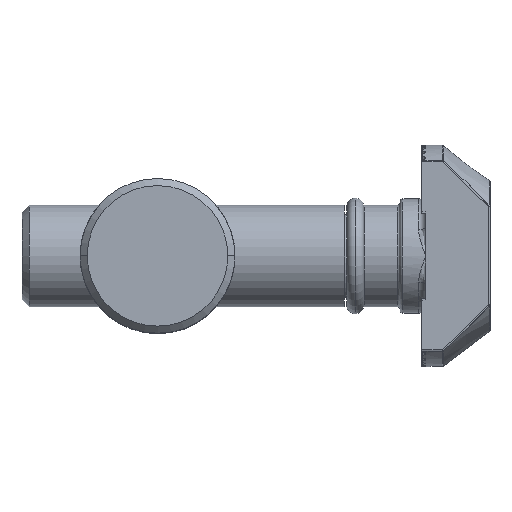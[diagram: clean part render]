
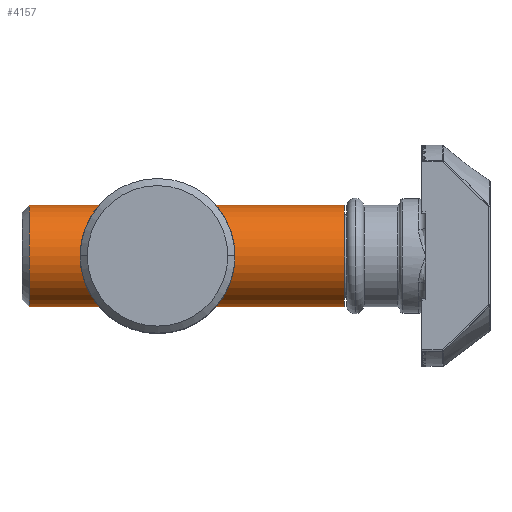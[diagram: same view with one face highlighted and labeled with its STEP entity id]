
A CAD part, top view. The second image highlights one B-rep face of the part: STEP entity #4157.
In plain terms, the highlighted cylindrical face has radius 3.55 mm (diameter 7.1 mm), a partial arc.
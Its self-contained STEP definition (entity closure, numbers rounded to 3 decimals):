
#701 = DIRECTION ( 'NONE',  ( 0., 0., -1. ) ) ;
#702 = DIRECTION ( 'NONE',  ( 0., -1., 0. ) ) ;
#703 = CARTESIAN_POINT ( 'NONE',  ( 0., 22.6, 0. ) ) ;
#1449 = VECTOR ( 'NONE', #10226, 1000. ) ;
#1457 = LINE ( 'NONE', #10220, #1449 ) ;
#1872 = LINE ( 'NONE', #12178, #1874 ) ;
#1874 = VECTOR ( 'NONE', #12173, 1000. ) ;
#1954 = DIRECTION ( 'NONE',  ( 0., 0., 1. ) ) ;
#1955 = DIRECTION ( 'NONE',  ( 0., 1., 0. ) ) ;
#1956 = CARTESIAN_POINT ( 'NONE',  ( 0., 0.5, 0. ) ) ;
#3204 = AXIS2_PLACEMENT_3D ( 'NONE', #5112, #5107, #5115 ) ;
#3305 = AXIS2_PLACEMENT_3D ( 'NONE', #1956, #1955, #1954 ) ;
#3306 = AXIS2_PLACEMENT_3D ( 'NONE', #703, #702, #701 ) ;
#3386 = FACE_OUTER_BOUND ( 'NONE', #4469, .T. ) ;
#3389 = CYLINDRICAL_SURFACE ( 'NONE', #3204, 3.55 ) ;
#3606 = CIRCLE ( 'NONE', #3306, 3.55 ) ;
#3610 = CIRCLE ( 'NONE', #3305, 3.55 ) ;
#4157 = ADVANCED_FACE ( 'NONE', ( #3386 ), #3389, .T. ) ;
#4325 = EDGE_CURVE ( 'NONE', #7883, #7952, #3610, .T. ) ;
#4334 = EDGE_CURVE ( 'NONE', #13175, #10859, #3606, .T. ) ;
#4469 = EDGE_LOOP ( 'NONE', ( #8330, #8331, #8332, #8333 ) ) ;
#5107 = DIRECTION ( 'NONE',  ( 0., -1., 0. ) ) ;
#5112 = CARTESIAN_POINT ( 'NONE',  ( 0., 0., 0. ) ) ;
#5115 = DIRECTION ( 'NONE',  ( 0., 0., -1. ) ) ;
#5808 = CARTESIAN_POINT ( 'NONE',  ( 0., 0.5, 3.55 ) ) ;
#5877 = CARTESIAN_POINT ( 'NONE',  ( 0., 0.5, -3.55 ) ) ;
#7605 = EDGE_CURVE ( 'NONE', #13175, #7952, #1457, .T. ) ;
#7883 = VERTEX_POINT ( 'NONE', #5808 ) ;
#7952 = VERTEX_POINT ( 'NONE', #5877 ) ;
#8247 = EDGE_CURVE ( 'NONE', #10859, #7883, #1872, .T. ) ;
#8330 = ORIENTED_EDGE ( 'NONE', *, *, #4334, .T. ) ;
#8331 = ORIENTED_EDGE ( 'NONE', *, *, #8247, .T. ) ;
#8332 = ORIENTED_EDGE ( 'NONE', *, *, #4325, .T. ) ;
#8333 = ORIENTED_EDGE ( 'NONE', *, *, #7605, .F. ) ;
#10220 = CARTESIAN_POINT ( 'NONE',  ( 0., 0., -3.55 ) ) ;
#10226 = DIRECTION ( 'NONE',  ( 0., -1., 0. ) ) ;
#10653 = CARTESIAN_POINT ( 'NONE',  ( 0., 22.6, -3.55 ) ) ;
#10859 = VERTEX_POINT ( 'NONE', #12854 ) ;
#12173 = DIRECTION ( 'NONE',  ( 0., -1., 0. ) ) ;
#12178 = CARTESIAN_POINT ( 'NONE',  ( 0., 0., 3.55 ) ) ;
#12854 = CARTESIAN_POINT ( 'NONE',  ( 0., 22.6, 3.55 ) ) ;
#13175 = VERTEX_POINT ( 'NONE', #10653 ) ;
